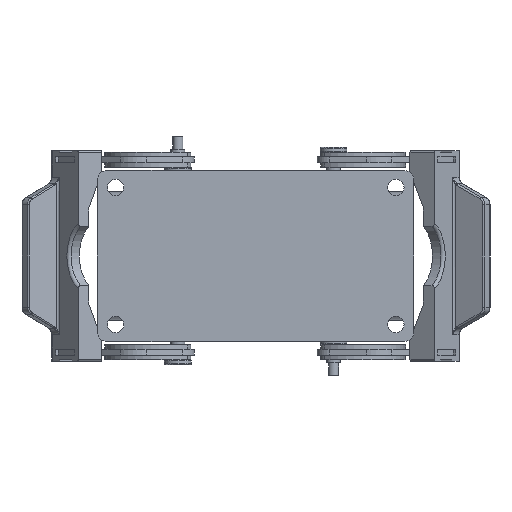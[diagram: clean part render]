
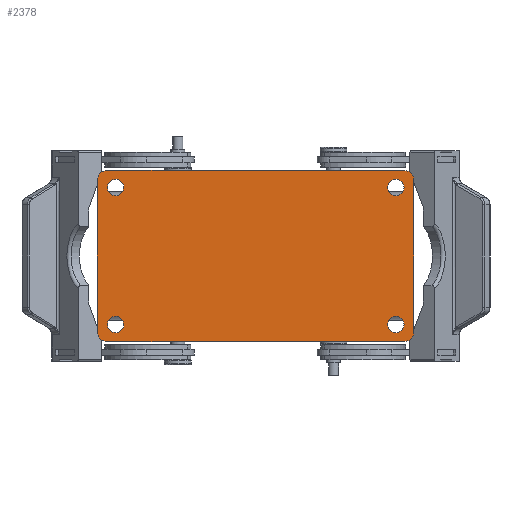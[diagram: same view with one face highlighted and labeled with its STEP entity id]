
A CAD part, front view. The second image highlights one B-rep face of the part: STEP entity #2378.
In plain terms, the highlighted planar face has unit normal (0, -1, 0).
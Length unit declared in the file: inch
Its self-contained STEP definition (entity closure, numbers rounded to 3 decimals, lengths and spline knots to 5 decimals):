
#1684 = EDGE_CURVE ( 'NONE', #1685, #1686, #5003, .T. ) ;
#1685 = VERTEX_POINT ( 'NONE', #4994 ) ;
#1686 = VERTEX_POINT ( 'NONE', #4993 ) ;
#1709 = EDGE_CURVE ( 'NONE', #1710, #1711, #5069, .T. ) ;
#1710 = VERTEX_POINT ( 'NONE', #5060 ) ;
#1711 = VERTEX_POINT ( 'NONE', #5059 ) ;
#1731 = VERTEX_POINT ( 'NONE', #5075 ) ;
#1759 = EDGE_CURVE ( 'NONE', #1760, #1761, #5159, .T. ) ;
#1760 = VERTEX_POINT ( 'NONE', #5154 ) ;
#1761 = VERTEX_POINT ( 'NONE', #5153 ) ;
#1763 = EDGE_CURVE ( 'NONE', #1764, #1731, #5152, .T. ) ;
#1764 = VERTEX_POINT ( 'NONE', #5147 ) ;
#1799 = VERTEX_POINT ( 'NONE', #5211 ) ;
#1800 = VERTEX_POINT ( 'NONE', #5207 ) ;
#1873 = EDGE_CURVE ( 'NONE', #1799, #1800, #5367, .T. ) ;
#2267 = EDGE_CURVE ( 'NONE', #2364, #2268, #6011, .T. ) ;
#2268 = VERTEX_POINT ( 'NONE', #6074 ) ;
#2272 = VERTEX_POINT ( 'NONE', #6064 ) ;
#2353 = EDGE_CURVE ( 'NONE', #2272, #2362, #6229, .T. ) ;
#2362 = VERTEX_POINT ( 'NONE', #6212 ) ;
#2364 = VERTEX_POINT ( 'NONE', #6211 ) ;
#2373 = VERTEX_POINT ( 'NONE', #6259 ) ;
#2378 = ADVANCED_FACE ( 'NONE', ( #6249, #6248, #6247, #6246, #6245 ), #6244, .F. ) ;
#2380 = EDGE_CURVE ( 'NONE', #2396, #2373, #6238, .T. ) ;
#2396 = VERTEX_POINT ( 'NONE', #6284 ) ;
#2406 = ORIENTED_EDGE ( 'NONE', *, *, #2407, .T. ) ;
#2407 = EDGE_CURVE ( 'NONE', #1711, #1710, #6274, .T. ) ;
#2408 = ORIENTED_EDGE ( 'NONE', *, *, #1709, .T. ) ;
#2409 = EDGE_LOOP ( 'NONE', ( #2412, #2437 ) ) ;
#2412 = ORIENTED_EDGE ( 'NONE', *, *, #2413, .T. ) ;
#2413 = EDGE_CURVE ( 'NONE', #1761, #1760, #6327, .T. ) ;
#2416 = ORIENTED_EDGE ( 'NONE', *, *, #1684, .T. ) ;
#2417 = EDGE_LOOP ( 'NONE', ( #2425, #2466, #2485, #2446, #2467, #2468, #2448, #2469 ) ) ;
#2419 = EDGE_CURVE ( 'NONE', #2364, #2362, #6318, .T. ) ;
#2425 = ORIENTED_EDGE ( 'NONE', *, *, #2353, .F. ) ;
#2428 = EDGE_CURVE ( 'NONE', #1731, #1764, #6305, .T. ) ;
#2429 = ORIENTED_EDGE ( 'NONE', *, *, #1763, .T. ) ;
#2430 = EDGE_LOOP ( 'NONE', ( #2431, #2416 ) ) ;
#2431 = ORIENTED_EDGE ( 'NONE', *, *, #2432, .T. ) ;
#2432 = EDGE_CURVE ( 'NONE', #1686, #1685, #6366, .T. ) ;
#2434 = EDGE_LOOP ( 'NONE', ( #2406, #2408 ) ) ;
#2437 = ORIENTED_EDGE ( 'NONE', *, *, #1759, .T. ) ;
#2438 = EDGE_LOOP ( 'NONE', ( #2439, #2429 ) ) ;
#2439 = ORIENTED_EDGE ( 'NONE', *, *, #2428, .T. ) ;
#2446 = ORIENTED_EDGE ( 'NONE', *, *, #2478, .T. ) ;
#2447 = EDGE_CURVE ( 'NONE', #2272, #1800, #6340, .T. ) ;
#2448 = ORIENTED_EDGE ( 'NONE', *, *, #2267, .F. ) ;
#2466 = ORIENTED_EDGE ( 'NONE', *, *, #2447, .T. ) ;
#2467 = ORIENTED_EDGE ( 'NONE', *, *, #2380, .F. ) ;
#2468 = ORIENTED_EDGE ( 'NONE', *, *, #2484, .T. ) ;
#2469 = ORIENTED_EDGE ( 'NONE', *, *, #2419, .T. ) ;
#2478 = EDGE_CURVE ( 'NONE', #1799, #2373, #6376, .T. ) ;
#2484 = EDGE_CURVE ( 'NONE', #2396, #2268, #6433, .T. ) ;
#2485 = ORIENTED_EDGE ( 'NONE', *, *, #1873, .F. ) ;
#4993 = CARTESIAN_POINT ( 'NONE',  ( -1.85039, 0., -0.79724 ) ) ;
#4994 = CARTESIAN_POINT ( 'NONE',  ( -1.85039, 0., -1.01378 ) ) ;
#4995 = DIRECTION ( 'NONE',  ( 0., 0., 1. ) ) ;
#4996 = DIRECTION ( 'NONE',  ( 0., 1., 0. ) ) ;
#4997 = CARTESIAN_POINT ( 'NONE',  ( -1.85039, 0., -0.90551 ) ) ;
#4998 = AXIS2_PLACEMENT_3D ( 'NONE', #4997, #4996, #4995 ) ;
#5003 = CIRCLE ( 'NONE', #4998, 0.10827 ) ;
#5059 = CARTESIAN_POINT ( 'NONE',  ( 1.85039, 0., -0.79724 ) ) ;
#5060 = CARTESIAN_POINT ( 'NONE',  ( 1.85039, 0., -1.01378 ) ) ;
#5061 = DIRECTION ( 'NONE',  ( 0., 0., -1. ) ) ;
#5062 = DIRECTION ( 'NONE',  ( 0., 1., 0. ) ) ;
#5063 = CARTESIAN_POINT ( 'NONE',  ( 1.85039, 0., -0.90551 ) ) ;
#5064 = AXIS2_PLACEMENT_3D ( 'NONE', #5063, #5062, #5061 ) ;
#5069 = CIRCLE ( 'NONE', #5064, 0.10827 ) ;
#5075 = CARTESIAN_POINT ( 'NONE',  ( -1.85039, 0., 1.01378 ) ) ;
#5147 = CARTESIAN_POINT ( 'NONE',  ( -1.85039, 0., 0.79724 ) ) ;
#5148 = DIRECTION ( 'NONE',  ( 0., 0., -1. ) ) ;
#5149 = DIRECTION ( 'NONE',  ( 0., 1., 0. ) ) ;
#5150 = CARTESIAN_POINT ( 'NONE',  ( -1.85039, 0., 0.90551 ) ) ;
#5151 = AXIS2_PLACEMENT_3D ( 'NONE', #5150, #5149, #5148 ) ;
#5152 = CIRCLE ( 'NONE', #5151, 0.10827 ) ;
#5153 = CARTESIAN_POINT ( 'NONE',  ( 1.85039, 0., 1.01378 ) ) ;
#5154 = CARTESIAN_POINT ( 'NONE',  ( 1.85039, 0., 0.79724 ) ) ;
#5155 = DIRECTION ( 'NONE',  ( 0., 0., 1. ) ) ;
#5156 = DIRECTION ( 'NONE',  ( 0., 1., 0. ) ) ;
#5157 = CARTESIAN_POINT ( 'NONE',  ( 1.85039, 0., 0.90551 ) ) ;
#5158 = AXIS2_PLACEMENT_3D ( 'NONE', #5157, #5156, #5155 ) ;
#5159 = CIRCLE ( 'NONE', #5158, 0.10827 ) ;
#5207 = CARTESIAN_POINT ( 'NONE',  ( -1.965, 0., -1.13 ) ) ;
#5211 = CARTESIAN_POINT ( 'NONE',  ( 1.965, 0., -1.13 ) ) ;
#5364 = DIRECTION ( 'NONE',  ( -1., 0., 0. ) ) ;
#5365 = VECTOR ( 'NONE', #5364, 39.37008 ) ;
#5366 = CARTESIAN_POINT ( 'NONE',  ( -2.09, 0., -1.13 ) ) ;
#5367 = LINE ( 'NONE', #5366, #5365 ) ;
#6010 = CARTESIAN_POINT ( 'NONE',  ( -2.09, 0., 1.13 ) ) ;
#6011 = LINE ( 'NONE', #6010, #6076 ) ;
#6064 = CARTESIAN_POINT ( 'NONE',  ( -2.09, 0., -1.005 ) ) ;
#6074 = CARTESIAN_POINT ( 'NONE',  ( 1.965, 0., 1.13 ) ) ;
#6075 = DIRECTION ( 'NONE',  ( 1., 0., 0. ) ) ;
#6076 = VECTOR ( 'NONE', #6075, 39.37008 ) ;
#6211 = CARTESIAN_POINT ( 'NONE',  ( -1.965, 0., 1.13 ) ) ;
#6212 = CARTESIAN_POINT ( 'NONE',  ( -2.09, 0., 1.005 ) ) ;
#6226 = DIRECTION ( 'NONE',  ( 0., 0., 1. ) ) ;
#6227 = VECTOR ( 'NONE', #6226, 39.37008 ) ;
#6228 = CARTESIAN_POINT ( 'NONE',  ( -2.09, 0., -1.13 ) ) ;
#6229 = LINE ( 'NONE', #6228, #6227 ) ;
#6235 = DIRECTION ( 'NONE',  ( 0., 0., -1. ) ) ;
#6236 = VECTOR ( 'NONE', #6235, 39.37008 ) ;
#6237 = CARTESIAN_POINT ( 'NONE',  ( 2.09, 0., -1.13 ) ) ;
#6238 = LINE ( 'NONE', #6237, #6236 ) ;
#6240 = DIRECTION ( 'NONE',  ( 0., 0., 1. ) ) ;
#6241 = DIRECTION ( 'NONE',  ( 0., 1., 0. ) ) ;
#6242 = CARTESIAN_POINT ( 'NONE',  ( -2.09, 0., 1.13 ) ) ;
#6243 = AXIS2_PLACEMENT_3D ( 'NONE', #6242, #6241, #6240 ) ;
#6244 = PLANE ( 'NONE',  #6243 ) ;
#6245 = FACE_OUTER_BOUND ( 'NONE', #2417, .T. ) ;
#6246 = FACE_BOUND ( 'NONE', #2430, .T. ) ;
#6247 = FACE_BOUND ( 'NONE', #2438, .T. ) ;
#6248 = FACE_BOUND ( 'NONE', #2409, .T. ) ;
#6249 = FACE_BOUND ( 'NONE', #2434, .T. ) ;
#6259 = CARTESIAN_POINT ( 'NONE',  ( 2.09, 0., -1.005 ) ) ;
#6270 = DIRECTION ( 'NONE',  ( 0., 0., -1. ) ) ;
#6271 = DIRECTION ( 'NONE',  ( 0., 1., 0. ) ) ;
#6272 = CARTESIAN_POINT ( 'NONE',  ( 1.85039, 0., -0.90551 ) ) ;
#6273 = AXIS2_PLACEMENT_3D ( 'NONE', #6272, #6271, #6270 ) ;
#6274 = CIRCLE ( 'NONE', #6273, 0.10827 ) ;
#6284 = CARTESIAN_POINT ( 'NONE',  ( 2.09, 0., 1.005 ) ) ;
#6301 = DIRECTION ( 'NONE',  ( 0., 0., -1. ) ) ;
#6302 = DIRECTION ( 'NONE',  ( 0., 1., 0. ) ) ;
#6303 = CARTESIAN_POINT ( 'NONE',  ( -1.85039, 0., 0.90551 ) ) ;
#6304 = AXIS2_PLACEMENT_3D ( 'NONE', #6303, #6302, #6301 ) ;
#6305 = CIRCLE ( 'NONE', #6304, 0.10827 ) ;
#6314 = DIRECTION ( 'NONE',  ( 0., 0., 1. ) ) ;
#6315 = DIRECTION ( 'NONE',  ( 0., -1., 0. ) ) ;
#6316 = CARTESIAN_POINT ( 'NONE',  ( -1.965, 0., 1.005 ) ) ;
#6317 = AXIS2_PLACEMENT_3D ( 'NONE', #6316, #6315, #6314 ) ;
#6318 = CIRCLE ( 'NONE', #6317, 0.125 ) ;
#6323 = DIRECTION ( 'NONE',  ( 0., 0., 1. ) ) ;
#6324 = DIRECTION ( 'NONE',  ( 0., 1., 0. ) ) ;
#6325 = CARTESIAN_POINT ( 'NONE',  ( 1.85039, 0., 0.90551 ) ) ;
#6326 = AXIS2_PLACEMENT_3D ( 'NONE', #6325, #6324, #6323 ) ;
#6327 = CIRCLE ( 'NONE', #6326, 0.10827 ) ;
#6336 = DIRECTION ( 'NONE',  ( 0., 0., 1. ) ) ;
#6337 = DIRECTION ( 'NONE',  ( 0., -1., 0. ) ) ;
#6338 = CARTESIAN_POINT ( 'NONE',  ( -1.965, 0., -1.005 ) ) ;
#6339 = AXIS2_PLACEMENT_3D ( 'NONE', #6338, #6337, #6336 ) ;
#6340 = CIRCLE ( 'NONE', #6339, 0.125 ) ;
#6362 = DIRECTION ( 'NONE',  ( 0., 0., 1. ) ) ;
#6363 = DIRECTION ( 'NONE',  ( 0., 1., 0. ) ) ;
#6364 = CARTESIAN_POINT ( 'NONE',  ( -1.85039, 0., -0.90551 ) ) ;
#6365 = AXIS2_PLACEMENT_3D ( 'NONE', #6364, #6363, #6362 ) ;
#6366 = CIRCLE ( 'NONE', #6365, 0.10827 ) ;
#6375 = AXIS2_PLACEMENT_3D ( 'NONE', #6436, #6435, #6434 ) ;
#6376 = CIRCLE ( 'NONE', #6375, 0.125 ) ;
#6429 = DIRECTION ( 'NONE',  ( 0., 0., 1. ) ) ;
#6430 = DIRECTION ( 'NONE',  ( 0., -1., 0. ) ) ;
#6431 = CARTESIAN_POINT ( 'NONE',  ( 1.965, 0., 1.005 ) ) ;
#6432 = AXIS2_PLACEMENT_3D ( 'NONE', #6431, #6430, #6429 ) ;
#6433 = CIRCLE ( 'NONE', #6432, 0.125 ) ;
#6434 = DIRECTION ( 'NONE',  ( 0., 0., 1. ) ) ;
#6435 = DIRECTION ( 'NONE',  ( 0., -1., 0. ) ) ;
#6436 = CARTESIAN_POINT ( 'NONE',  ( 1.965, 0., -1.005 ) ) ;
